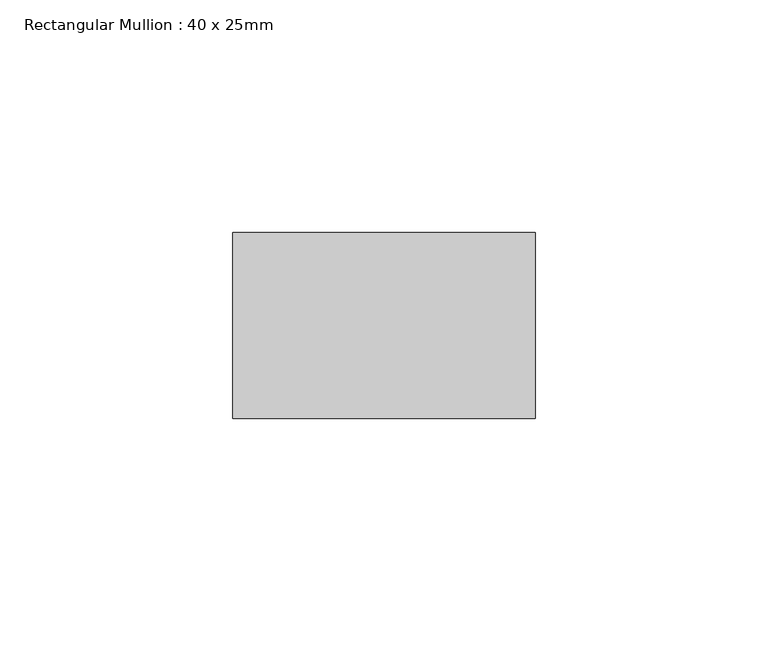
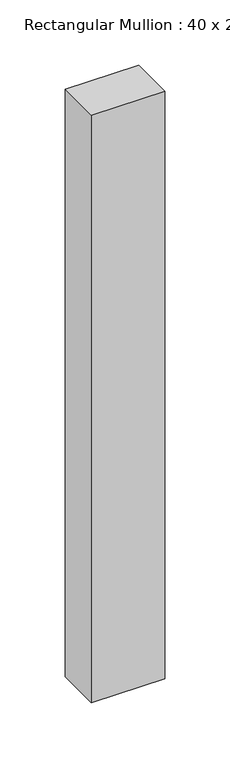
"""IFC4 building model written with IfcOpenShell, lengths in millimetres: member geometry, Rectangular Mullion : 40 x 25mm."""

from ifc_helpers import new_model, si_unit, frame, origin, place, context, project, spatial, polyline, outline, extrude, source, transform, mapped, element, save


def rectangular_mullion_40_x_25mm_7a5e6011(model_context):
    return source(origin(), model_context, "Body", "SweptSolid", [
        extrude(outline(polyline([(40.0, -20.0), (40.0, -60.0), (-25.0, -60.0), (-25.0, -20.0), (40.0, -20.0)])), frame((0.0, 0.0, -550.0), z_axis=(0.0, 0.0, 1.0), x_axis=(1.0, 0.0, 0.0)), (0.0, 0.0, 1.0), 550.0),
    ])


if __name__ == "__main__":
    model = new_model("IFC4")
    model_context = context("Model", 3, world=origin())
    ifc_project = project(units=[si_unit("LENGTHUNIT", "METRE", prefix="MILLI")], contexts=[model_context])
    site = spatial("IfcSite", under=ifc_project)
    building = spatial("IfcBuilding", under=site)
    placement = place(None, origin())
    rectangular_mullion_40_x_25mm_shape = rectangular_mullion_40_x_25mm_7a5e6011(model_context)
    element("IfcMember", 1, ObjectType="Rectangular Mullion : 40 x 25mm", at=placement, inside=building, context=model_context, shape_type="MappedRepresentation", body=[
        mapped(rectangular_mullion_40_x_25mm_shape, transform((0.0, 0.0, 0.0), x_axis=(1.0, 0.0, 0.0), y_axis=(0.0, 1.0, 0.0), z_axis=(0.0, 0.0, 1.0))),
    ])
    save(model, "model.ifc")
